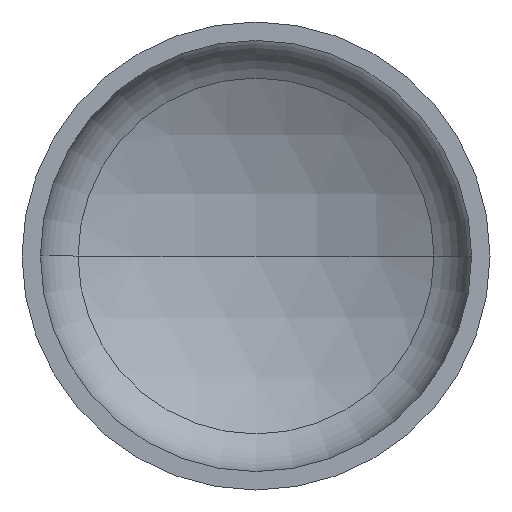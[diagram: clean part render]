
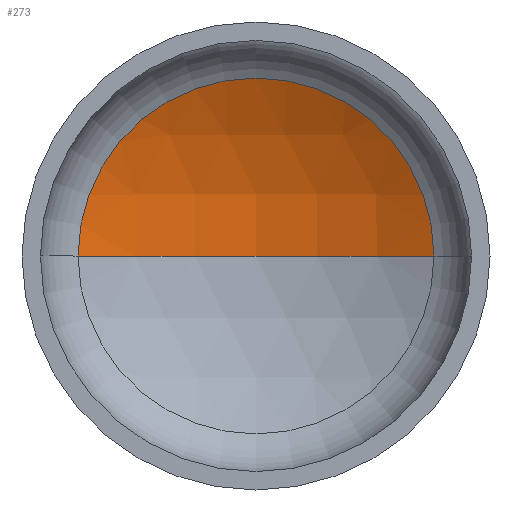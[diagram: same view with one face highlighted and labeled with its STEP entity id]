
A CAD part, front view. The second image highlights one B-rep face of the part: STEP entity #273.
In plain terms, the highlighted spherical face has radius 2400 mm.
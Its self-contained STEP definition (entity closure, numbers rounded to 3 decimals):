
#2 = VERTEX_POINT ( 'NONE', #261 ) ;
#5 = AXIS2_PLACEMENT_3D ( 'NONE', #145, #130, #142 ) ;
#7 = ORIENTED_EDGE ( 'NONE', *, *, #126, .T. ) ;
#11 = AXIS2_PLACEMENT_3D ( 'NONE', #379, #191, #405 ) ;
#24 = EDGE_LOOP ( 'NONE', ( #60, #39, #7 ) ) ;
#25 = AXIS2_PLACEMENT_3D ( 'NONE', #40, #174, #244 ) ;
#39 = ORIENTED_EDGE ( 'NONE', *, *, #355, .T. ) ;
#40 = CARTESIAN_POINT ( 'NONE',  ( 0., -1631.902, 0. ) ) ;
#48 = AXIS2_PLACEMENT_3D ( 'NONE', #184, #201, #205 ) ;
#54 = VERTEX_POINT ( 'NONE', #255 ) ;
#60 = ORIENTED_EDGE ( 'NONE', *, *, #356, .F. ) ;
#105 = VERTEX_POINT ( 'NONE', #222 ) ;
#126 = EDGE_CURVE ( 'NONE', #54, #105, #364, .T. ) ;
#130 = DIRECTION ( 'NONE',  ( 0., 0., 1. ) ) ;
#142 = DIRECTION ( 'NONE',  ( 1., 0., 0. ) ) ;
#145 = CARTESIAN_POINT ( 'NONE',  ( 0., -1631.902, 0. ) ) ;
#148 = CIRCLE ( 'NONE', #5, 2400. ) ;
#154 = CIRCLE ( 'NONE', #11, 2400. ) ;
#174 = DIRECTION ( 'NONE',  ( 0., 0., -1. ) ) ;
#184 = CARTESIAN_POINT ( 'NONE',  ( 0., 479.729, 0. ) ) ;
#191 = DIRECTION ( 'NONE',  ( 0., 0., -1. ) ) ;
#201 = DIRECTION ( 'NONE',  ( 0., -1., 0. ) ) ;
#205 = DIRECTION ( 'NONE',  ( 1., 0., 0. ) ) ;
#222 = CARTESIAN_POINT ( 'NONE',  ( -1140.619, 479.729, 0. ) ) ;
#234 = FACE_OUTER_BOUND ( 'NONE', #24, .T. ) ;
#244 = DIRECTION ( 'NONE',  ( -1., 0., 0. ) ) ;
#255 = CARTESIAN_POINT ( 'NONE',  ( 1140.619, 479.729, 0. ) ) ;
#261 = CARTESIAN_POINT ( 'NONE',  ( 0., 768.098, 0. ) ) ;
#273 = ADVANCED_FACE ( 'NONE', ( #234 ), #409, .F. ) ;
#355 = EDGE_CURVE ( 'NONE', #2, #54, #154, .T. ) ;
#356 = EDGE_CURVE ( 'NONE', #2, #105, #148, .T. ) ;
#364 = CIRCLE ( 'NONE', #48, 1140.619 ) ;
#379 = CARTESIAN_POINT ( 'NONE',  ( 0., -1631.902, 0. ) ) ;
#405 = DIRECTION ( 'NONE',  ( -1., 0., 0. ) ) ;
#409 = SPHERICAL_SURFACE ( 'NONE', #25, 2400. ) ;
